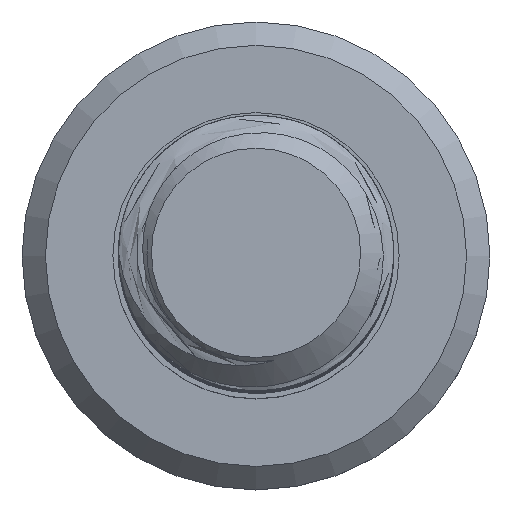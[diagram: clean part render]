
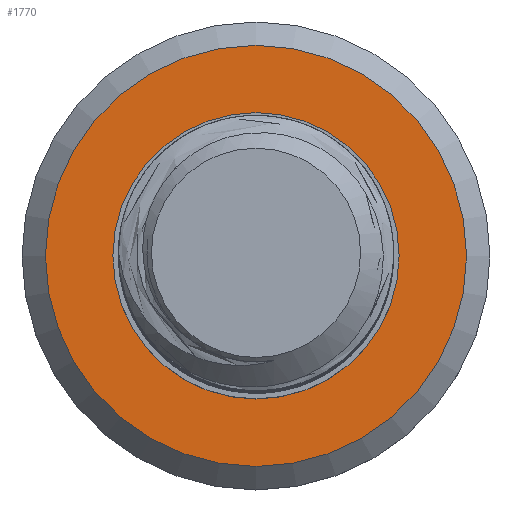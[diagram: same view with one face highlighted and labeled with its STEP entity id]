
A CAD part, top view. The second image highlights one B-rep face of the part: STEP entity #1770.
In plain terms, the highlighted planar face has unit normal (0, 0, 1).
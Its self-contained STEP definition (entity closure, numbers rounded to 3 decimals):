
#15=FACE_BOUND('',#237,.T.);
#19=PLANE('',#1898);
#135=FACE_OUTER_BOUND('',#236,.T.);
#236=EDGE_LOOP('',(#1555));
#237=EDGE_LOOP('',(#1556));
#258=CIRCLE('',#1878,2.6);
#262=CIRCLE('',#1883,3.825);
#767=VERTEX_POINT('',#7888);
#771=VERTEX_POINT('',#7898);
#1016=EDGE_CURVE('',#767,#767,#258,.T.);
#1022=EDGE_CURVE('',#771,#771,#262,.T.);
#1555=ORIENTED_EDGE('',*,*,#1022,.T.);
#1556=ORIENTED_EDGE('',*,*,#1016,.F.);
#1770=ADVANCED_FACE('',(#135,#15),#19,.F.);
#1878=AXIS2_PLACEMENT_3D('',#7889,#2152,#2153);
#1883=AXIS2_PLACEMENT_3D('',#7900,#2164,#2165);
#1898=AXIS2_PLACEMENT_3D('',#10030,#2197,#2198);
#2152=DIRECTION('center_axis',(0.,0.,1.));
#2153=DIRECTION('ref_axis',(-1.,0.,0.));
#2164=DIRECTION('center_axis',(0.,0.,1.));
#2165=DIRECTION('ref_axis',(-1.,0.,0.));
#2197=DIRECTION('center_axis',(0.,0.,-1.));
#2198=DIRECTION('ref_axis',(-1.,0.,0.));
#7888=CARTESIAN_POINT('',(2.6,0.,-31.7));
#7889=CARTESIAN_POINT('Origin',(0.,0.,-31.7));
#7898=CARTESIAN_POINT('',(3.825,0.,-31.7));
#7900=CARTESIAN_POINT('Origin',(0.,0.,-31.7));
#10030=CARTESIAN_POINT('Origin',(0.,0.,-31.7));
